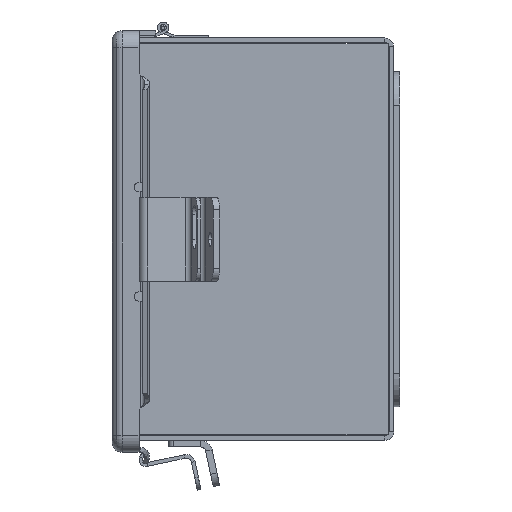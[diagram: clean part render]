
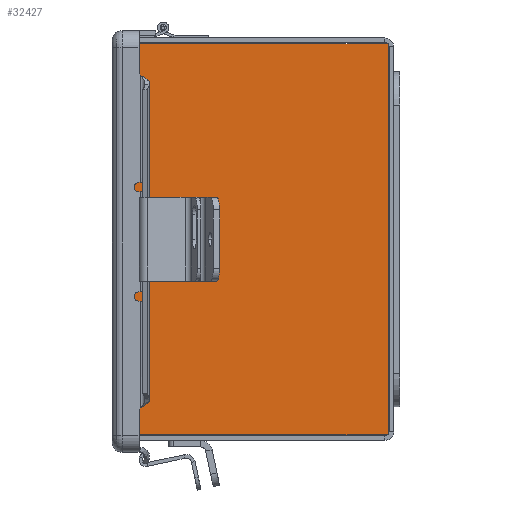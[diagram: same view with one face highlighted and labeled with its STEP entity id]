
A CAD part, left-side view. The second image highlights one B-rep face of the part: STEP entity #32427.
In plain terms, the highlighted planar face has unit normal (-1, 0, 0) as drawn and (0, 0, 1) by its records, which use the part's own axes.
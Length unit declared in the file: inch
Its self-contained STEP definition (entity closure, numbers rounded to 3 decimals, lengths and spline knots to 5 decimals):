
#207 = VERTEX_POINT ( 'NONE', #34919 ) ;
#409 = EDGE_LOOP ( 'NONE', ( #6390, #22067, #14740, #15306, #14835, #30021, #5249, #28392 ) ) ;
#519 = CARTESIAN_POINT ( 'NONE',  ( 2.931, 1.8815, 0. ) ) ;
#608 = VERTEX_POINT ( 'NONE', #1359 ) ;
#1359 = CARTESIAN_POINT ( 'NONE',  ( 2.596, 1.8365, 0. ) ) ;
#1504 = PLANE ( 'NONE',  #13685 ) ;
#1765 = VERTEX_POINT ( 'NONE', #24312 ) ;
#1916 = VECTOR ( 'NONE', #25650, 39.37008 ) ;
#3786 = VECTOR ( 'NONE', #36203, 39.37008 ) ;
#4778 = VERTEX_POINT ( 'NONE', #12484 ) ;
#4892 = CARTESIAN_POINT ( 'NONE',  ( 2.916, -1.9505, 0. ) ) ;
#5249 = ORIENTED_EDGE ( 'NONE', *, *, #18927, .T. ) ;
#5311 = LINE ( 'NONE', #24253, #12255 ) ;
#6390 = ORIENTED_EDGE ( 'NONE', *, *, #18998, .F. ) ;
#7501 = DIRECTION ( 'NONE',  ( 0., 0., -1. ) ) ;
#7537 = VECTOR ( 'NONE', #23816, 39.37008 ) ;
#8086 = VECTOR ( 'NONE', #25225, 39.37008 ) ;
#9147 = VERTEX_POINT ( 'NONE', #10604 ) ;
#9815 = LINE ( 'NONE', #31428, #1916 ) ;
#9850 = LINE ( 'NONE', #33171, #3786 ) ;
#10604 = CARTESIAN_POINT ( 'NONE',  ( -2.596, 1.8365, 0. ) ) ;
#11242 = LINE ( 'NONE', #22941, #27173 ) ;
#12006 = EDGE_CURVE ( 'NONE', #26904, #9147, #5311, .T. ) ;
#12255 = VECTOR ( 'NONE', #27147, 39.37008 ) ;
#12484 = CARTESIAN_POINT ( 'NONE',  ( 2.596, 1.8815, 0. ) ) ;
#13685 = AXIS2_PLACEMENT_3D ( 'NONE', #22404, #7501, #28409 ) ;
#14120 = LINE ( 'NONE', #22210, #8086 ) ;
#14740 = ORIENTED_EDGE ( 'NONE', *, *, #22061, .F. ) ;
#14835 = ORIENTED_EDGE ( 'NONE', *, *, #24823, .F. ) ;
#15081 = DIRECTION ( 'NONE',  ( -1., 0., 0. ) ) ;
#15183 = VERTEX_POINT ( 'NONE', #4892 ) ;
#15306 = ORIENTED_EDGE ( 'NONE', *, *, #25313, .F. ) ;
#16176 = VECTOR ( 'NONE', #18403, 39.37008 ) ;
#18403 = DIRECTION ( 'NONE',  ( 1., 0., 0. ) ) ;
#18927 = EDGE_CURVE ( 'NONE', #608, #9147, #25055, .T. ) ;
#18998 = EDGE_CURVE ( 'NONE', #207, #26904, #31159, .T. ) ;
#22061 = EDGE_CURVE ( 'NONE', #15183, #35525, #14120, .T. ) ;
#22067 = ORIENTED_EDGE ( 'NONE', *, *, #24505, .F. ) ;
#22210 = CARTESIAN_POINT ( 'NONE',  ( 2.931, -1.9505, 0. ) ) ;
#22404 = CARTESIAN_POINT ( 'NONE',  ( 2.931, 1.9655, 0. ) ) ;
#22792 = CARTESIAN_POINT ( 'NONE',  ( -2.916, -1.9505, 0. ) ) ;
#22941 = CARTESIAN_POINT ( 'NONE',  ( 2.931, 1.8815, 0. ) ) ;
#23437 = LINE ( 'NONE', #32886, #7537 ) ;
#23816 = DIRECTION ( 'NONE',  ( 0., 1., 0. ) ) ;
#24099 = VECTOR ( 'NONE', #15081, 39.37008 ) ;
#24253 = CARTESIAN_POINT ( 'NONE',  ( -2.596, 1.9655, 0. ) ) ;
#24312 = CARTESIAN_POINT ( 'NONE',  ( 2.916, 1.8815, 0. ) ) ;
#24505 = EDGE_CURVE ( 'NONE', #35525, #207, #9850, .T. ) ;
#24823 = EDGE_CURVE ( 'NONE', #4778, #1765, #11242, .T. ) ;
#25036 = EDGE_CURVE ( 'NONE', #608, #4778, #23437, .T. ) ;
#25055 = LINE ( 'NONE', #32807, #24099 ) ;
#25225 = DIRECTION ( 'NONE',  ( -1., 0., 0. ) ) ;
#25313 = EDGE_CURVE ( 'NONE', #1765, #15183, #9815, .T. ) ;
#25650 = DIRECTION ( 'NONE',  ( 0., -1., 0. ) ) ;
#26904 = VERTEX_POINT ( 'NONE', #28142 ) ;
#27147 = DIRECTION ( 'NONE',  ( 0., -1., 0. ) ) ;
#27173 = VECTOR ( 'NONE', #37910, 39.37008 ) ;
#28142 = CARTESIAN_POINT ( 'NONE',  ( -2.596, 1.8815, 0. ) ) ;
#28392 = ORIENTED_EDGE ( 'NONE', *, *, #12006, .F. ) ;
#28409 = DIRECTION ( 'NONE',  ( -1., 0., 0. ) ) ;
#28850 = FACE_OUTER_BOUND ( 'NONE', #409, .T. ) ;
#30021 = ORIENTED_EDGE ( 'NONE', *, *, #25036, .F. ) ;
#31159 = LINE ( 'NONE', #519, #16176 ) ;
#31428 = CARTESIAN_POINT ( 'NONE',  ( 2.916, 1.9655, 0. ) ) ;
#32427 = ADVANCED_FACE ( 'NONE', ( #28850 ), #1504, .F. ) ;
#32807 = CARTESIAN_POINT ( 'NONE',  ( 2.596, 1.8365, 0. ) ) ;
#32886 = CARTESIAN_POINT ( 'NONE',  ( 2.596, 1.9655, 0. ) ) ;
#33171 = CARTESIAN_POINT ( 'NONE',  ( -2.916, 1.9655, 0. ) ) ;
#34919 = CARTESIAN_POINT ( 'NONE',  ( -2.916, 1.8815, 0. ) ) ;
#35525 = VERTEX_POINT ( 'NONE', #22792 ) ;
#36203 = DIRECTION ( 'NONE',  ( 0., 1., 0. ) ) ;
#37910 = DIRECTION ( 'NONE',  ( 1., 0., 0. ) ) ;
